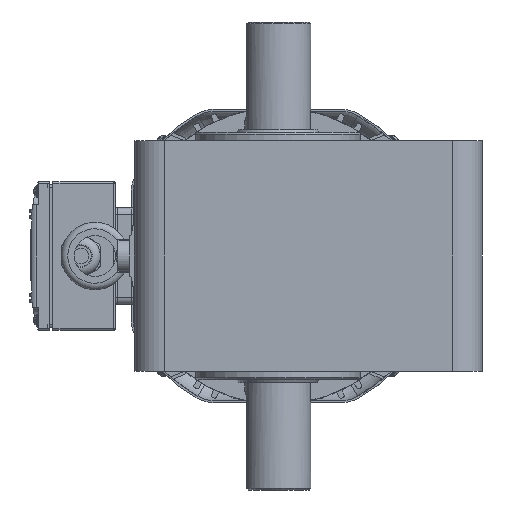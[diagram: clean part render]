
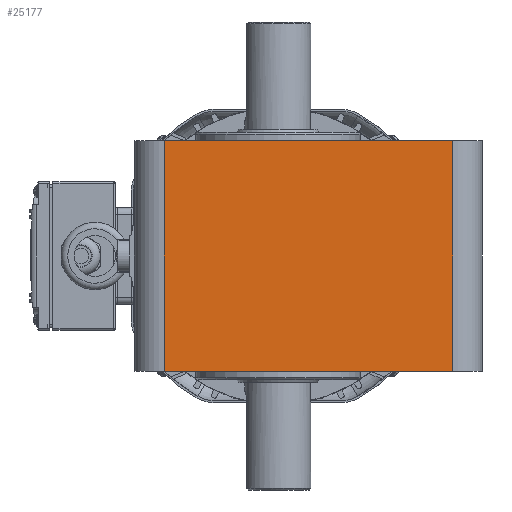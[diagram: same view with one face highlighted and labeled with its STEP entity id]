
A CAD part, left-side view. The second image highlights one B-rep face of the part: STEP entity #25177.
In plain terms, the highlighted planar face has unit normal (-1, 0, 0).
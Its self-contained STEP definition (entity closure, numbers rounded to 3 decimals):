
#703=PLANE('',#27660);
#1858=FACE_OUTER_BOUND('',#3361,.T.);
#3361=EDGE_LOOP('',(#20153,#20154,#20155,#20156));
#6684=LINE('',#42825,#8634);
#6709=LINE('',#42935,#8659);
#6710=LINE('',#42939,#8660);
#6711=LINE('',#42940,#8661);
#8634=VECTOR('',#33563,175.);
#8659=VECTOR('',#33678,140.);
#8660=VECTOR('',#33683,140.);
#8661=VECTOR('',#33684,175.);
#11218=VERTEX_POINT('',#42822);
#11219=VERTEX_POINT('',#42824);
#11259=VERTEX_POINT('',#42934);
#11260=VERTEX_POINT('',#42938);
#14344=EDGE_CURVE('',#11219,#11218,#6684,.T.);
#14397=EDGE_CURVE('',#11219,#11259,#6709,.T.);
#14399=EDGE_CURVE('',#11260,#11218,#6710,.T.);
#14400=EDGE_CURVE('',#11260,#11259,#6711,.T.);
#20153=ORIENTED_EDGE('',*,*,#14397,.F.);
#20154=ORIENTED_EDGE('',*,*,#14344,.T.);
#20155=ORIENTED_EDGE('',*,*,#14399,.F.);
#20156=ORIENTED_EDGE('',*,*,#14400,.T.);
#25177=ADVANCED_FACE('',(#1858),#703,.T.);
#27660=AXIS2_PLACEMENT_3D('',#42937,#33681,#33682);
#33563=DIRECTION('',(0.,1.,0.));
#33678=DIRECTION('',(0.,0.,-1.));
#33681=DIRECTION('center_axis',(-1.,0.,0.));
#33682=DIRECTION('ref_axis',(0.,0.,1.));
#33683=DIRECTION('',(0.,0.,1.));
#33684=DIRECTION('',(0.,-1.,0.));
#42822=CARTESIAN_POINT('',(-118.336,54.546,70.));
#42824=CARTESIAN_POINT('',(-118.336,-120.454,70.));
#42825=CARTESIAN_POINT('',(-118.336,-120.454,70.));
#42934=CARTESIAN_POINT('',(-118.336,-120.454,-70.));
#42935=CARTESIAN_POINT('',(-118.336,-120.454,70.));
#42937=CARTESIAN_POINT('Origin',(-118.336,-138.454,-70.));
#42938=CARTESIAN_POINT('',(-118.336,54.546,-70.));
#42939=CARTESIAN_POINT('',(-118.336,54.546,-70.));
#42940=CARTESIAN_POINT('',(-118.336,54.546,-70.));
